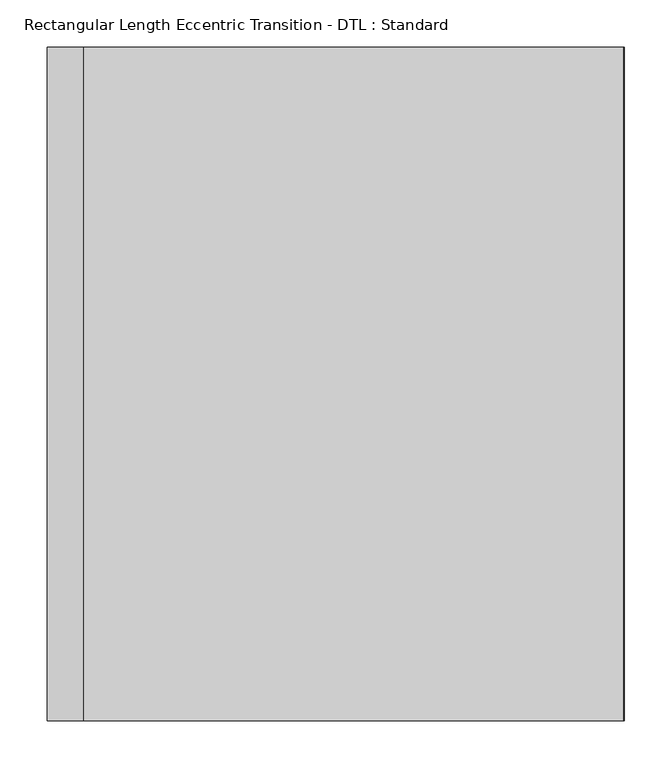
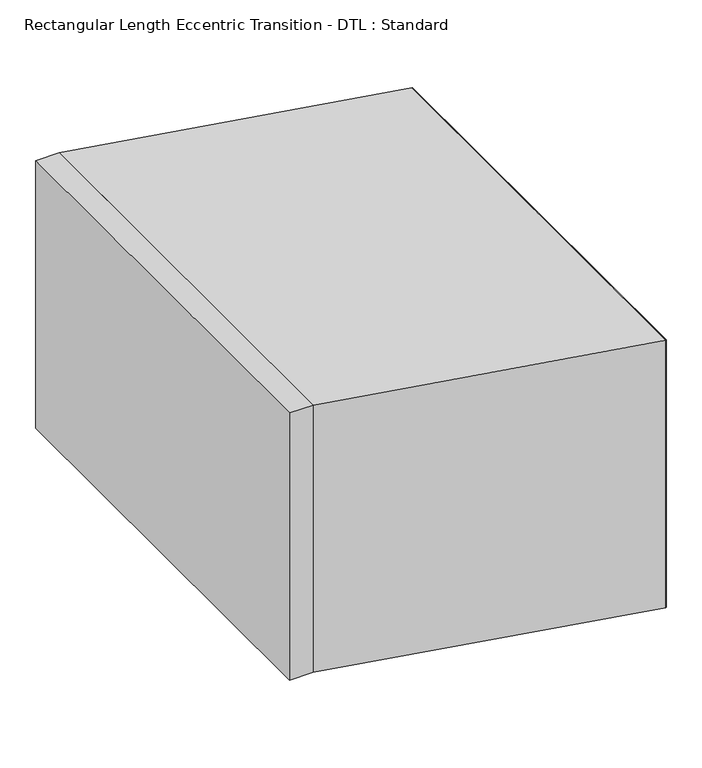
"""IFC4 building model written with IfcOpenShell, lengths in millimetres: duct fitting geometry, Rectangular Length Eccentric Transition - DTL : Standard."""

from ifc_helpers import new_model, si_unit, frame, origin, place, context, project, spatial, polyline, outline, extrude, source, transform, mapped, element, save


def rectangular_length_eccentric_transition_dtl_standard_1bdf21b8(model_context):
    return source(origin(), model_context, "Body", "SweptSolid", [
        extrude(outline(polyline([(609.6, 355.6), (609.6, -355.6), (608.80625, -355.6), (608.80625, 355.6), (609.6, 355.6)])), frame((0.0, 0.0, -317.5), z_axis=(0.0, 0.0, 1.0), x_axis=(1.0, 0.0, 0.0)), (0.0, 0.0, 1.0), 457.2),
        extrude(outline(polyline([(38.1, 355.6), (38.1, -355.6), (0.0, -355.6), (0.0, 355.6), (38.1, 355.6)])), frame((0.0, 0.0, -228.6), z_axis=(0.0, 0.0, 1.0), x_axis=(1.0, 0.0, 0.0)), (0.0, 0.0, 1.0), 457.2),
        extrude(outline(polyline([(-317.5, 608.80625), (139.7, 608.80625), (228.6, 38.1), (-228.6, 38.1), (-317.5, 608.80625)])), frame((0.0, -355.6, 0.0), z_axis=(0.0, 1.0, 0.0), x_axis=(0.0, 0.0, 1.0)), (0.0, 0.0, 1.0), 711.2),
    ])


if __name__ == "__main__":
    model = new_model("IFC4")
    model_context = context("Model", 3, world=origin())
    ifc_project = project(units=[si_unit("LENGTHUNIT", "METRE", prefix="MILLI")], contexts=[model_context])
    site = spatial("IfcSite", under=ifc_project)
    building = spatial("IfcBuilding", under=site)
    placement = place(None, origin())
    rectangular_length_eccentric_transition_dtl_standard_shape = rectangular_length_eccentric_transition_dtl_standard_1bdf21b8(model_context)
    element("IfcDuctFitting", 1, ObjectType="Rectangular Length Eccentric Transition - DTL : Standard", at=placement, inside=building, context=model_context, shape_type="MappedRepresentation", body=[
        mapped(rectangular_length_eccentric_transition_dtl_standard_shape, transform((0.0, 0.0, 0.0), x_axis=(1.0, 0.0, 0.0), y_axis=(0.0, 1.0, 0.0), z_axis=(0.0, 0.0, 1.0))),
    ])
    save(model, "model.ifc")
